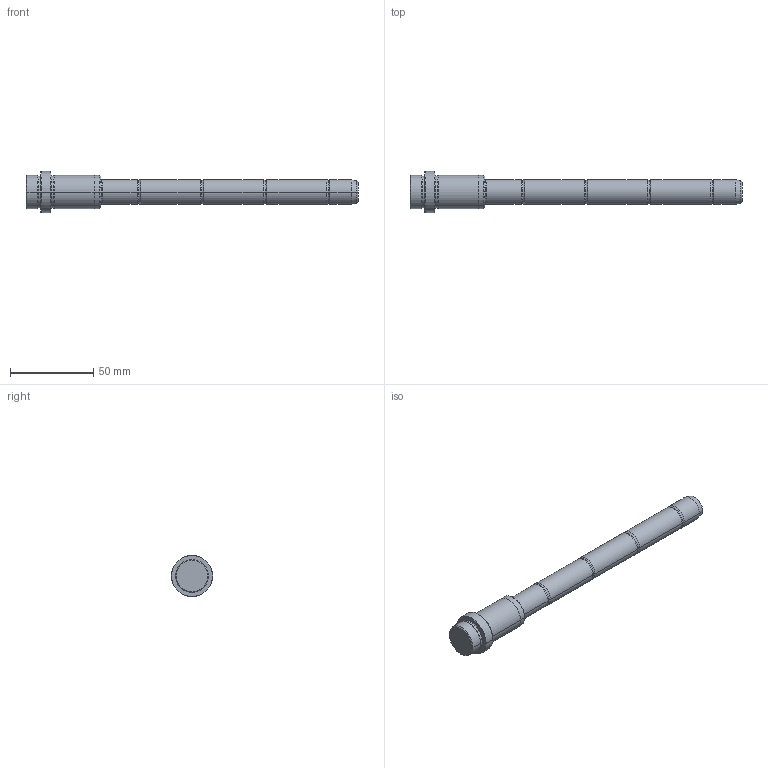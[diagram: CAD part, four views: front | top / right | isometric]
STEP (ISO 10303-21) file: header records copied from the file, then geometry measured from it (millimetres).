
FILE_DESCRIPTION (( 'STEP AP203' ), '1' );
FILE_NAME ('GDP-EC-15-036-155.step', '2015-11-28T18:51:17', ( '' ), ( '' ), 'SwSTEP 2.0', 'SolidWorks 2009', '' );
FILE_SCHEMA (( 'CONFIG_CONTROL_DESIGN' ));
Length unit declared in the file: millimetre
Products named in the file (1): GDP-EC-15-036-155
Bounding box: 200 x 25 x 25 mm (x, y, z)
Volume: 42257.5 mm3; surface area: 11173.1 mm2
Topology: 1 solids, 1 shells, 70 faces, 138 edges, 76 vertices
Faces by surface type: torus 30, cylinder 22, cone 10, plane 8
Entity records: 1881 total; most frequent: DIRECTION 386, CARTESIAN_POINT 285, ORIENTED_EDGE 276, AXIS2_PLACEMENT_3D 177, EDGE_CURVE 138, CIRCLE 106, EDGE_LOOP 76, VERTEX_POINT 76
